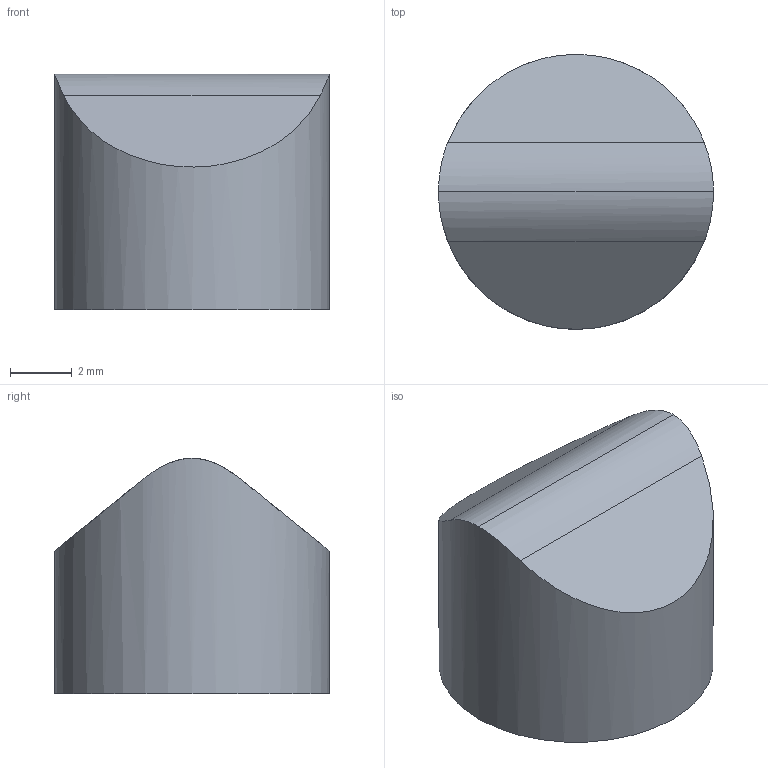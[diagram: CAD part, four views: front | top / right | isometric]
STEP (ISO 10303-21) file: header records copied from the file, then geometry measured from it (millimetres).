
FILE_DESCRIPTION(/* description */ ('Alibre Inc.'),/* implementation_level */ '2;1');
FILE_NAME(/* name */ 'export0',/* time_stamp */ '2011-07-18T14:34:14-04:00',/* author */ (''),/* organization */ (''),/* preprocessor_version */ 'ST-DEVELOPER v12',/* originating_system */ 'Alibre',/* authorisation */ '');
FILE_SCHEMA (('AUTOMOTIVE_DESIGN'));
Length unit declared in the file: centimetre
Bounding box: 8.89 x 8.89 x 7.62 mm (x, y, z)
Volume: 409.9 mm3; surface area: 301.3 mm2
Topology: 1 solids, 1 shells, 6 faces, 11 edges, 7 vertices
Faces by surface type: plane 3, bspline 2, cylinder 1
Full cylindrical faces by diameter (mm): 8.89 x1
Entity records: 209 total; most frequent: CARTESIAN_POINT 89, ORIENTED_EDGE 20, DIRECTION 14, EDGE_CURVE 10, VERTEX_POINT 7, EDGE_LOOP 7, FACE_BOUND 7, AXIS2_PLACEMENT_3D 7
